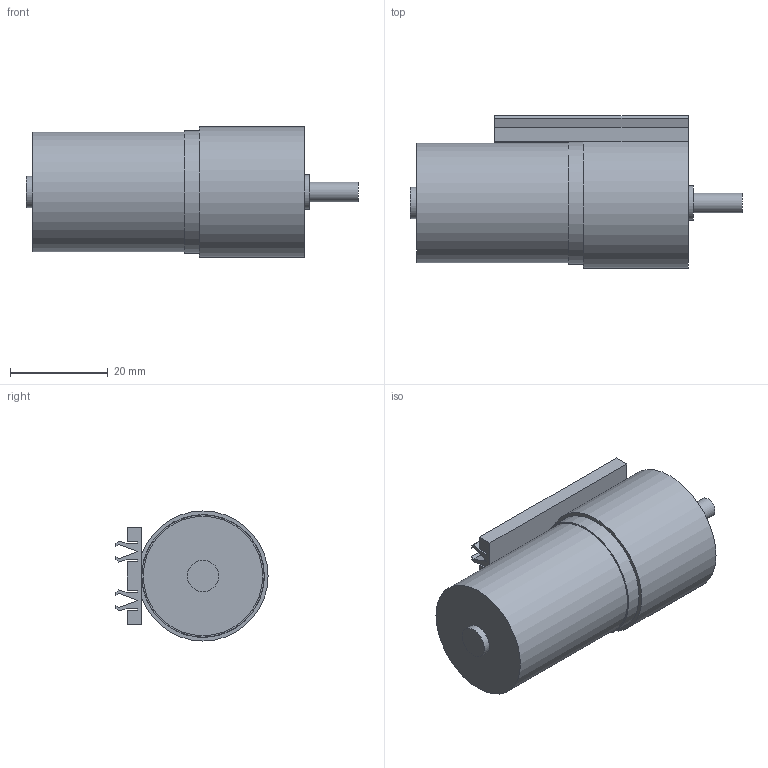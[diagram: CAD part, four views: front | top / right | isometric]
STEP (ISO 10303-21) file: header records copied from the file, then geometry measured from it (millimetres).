
FILE_DESCRIPTION(/* description */ (''),/* implementation_level */ '2;1');
FILE_NAME(/* name */ 'C:/Users/priba/Documents/Temp/mrm-bdc24-100Holder.step',/* time_stamp */ '2019-11-01T23:18:08+01:00',/* author */ (''),/* organization */ (''),/* preprocessor_version */ 'ST-DEVELOPER v18',/* originating_system */ 'Autodesk Translation Framework v8.9.1.1155',/* authorisation */ '');
FILE_SCHEMA (('AUTOMOTIVE_DESIGN { 1 0 10303 214 3 1 1 }'));
Length unit declared in the file: millimetre
Products named in the file (2): mrm-bdc24-100Holder; mrm-bdc24-100
Assembly tree (1 placements, depth 2):
  mrm-bdc24-100Holder
    mrm-bdc24-100
Bounding box: 67.9 x 31.11 x 26.6 mm (x, y, z)
Volume: 30203.5 mm3; surface area: 13099.5 mm2
Topology: 2 solids, 2 shells, 67 faces, 179 edges, 122 vertices
Faces by surface type: plane 53, cylinder 14
Full cylindrical faces by diameter (mm): 3 x2, 3.2 x4, 4 x1, 6.4 x1, 7 x1, 7.5 x1, 24.4 x1, 25 x1, 25.1 x1
Entity records: 2171 total; most frequent: CARTESIAN_POINT 371, DIRECTION 359, ORIENTED_EDGE 358, EDGE_CURVE 179, LINE 139, VECTOR 139, VERTEX_POINT 122, AXIS2_PLACEMENT_3D 110
